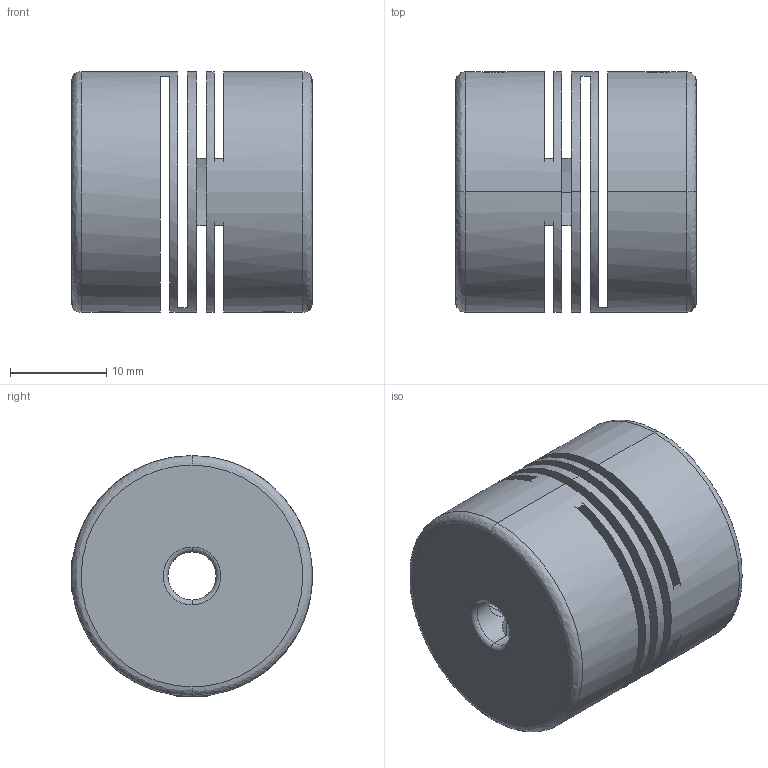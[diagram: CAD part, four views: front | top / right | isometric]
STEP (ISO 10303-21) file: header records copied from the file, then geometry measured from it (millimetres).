
FILE_DESCRIPTION (( 'STEP AP203' ), '1' );
FILE_NAME ('FAMM-S25.STEP', '2008-04-19T05:46:41', ( 'user' ), ( '' ), 'SwSTEP 2.0', 'SolidWorks 2007', '' );
FILE_SCHEMA (( 'CONFIG_CONTROL_DESIGN' ));
Length unit declared in the file: millimetre
Products named in the file (1): FAMM-S25
Bounding box: 25 x 25 x 25 mm (x, y, z)
Surface area: 6398.4 mm2 (no closed solid volume)
Topology: 0 solids, 9 shells, 99 faces, 288 edges, 185 vertices
Faces by surface type: plane 38, cone 29, bspline 16, cylinder 16
Entity records: 5999 total; most frequent: CARTESIAN_POINT 3453, ORIENTED_EDGE 495, DIRECTION 479, EDGE_CURVE 284, VERTEX_POINT 185, AXIS2_PLACEMENT_3D 167, VECTOR 145, LINE 145
